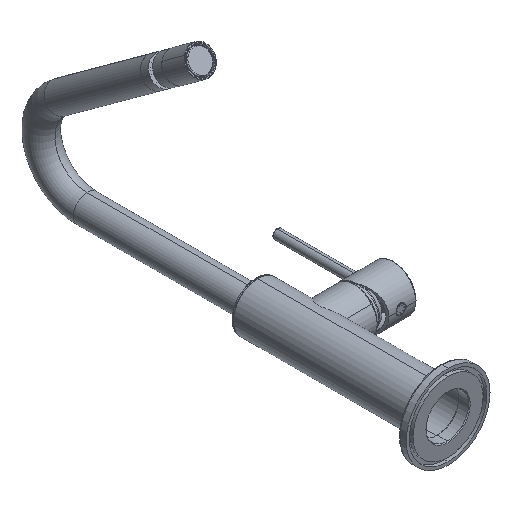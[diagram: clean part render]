
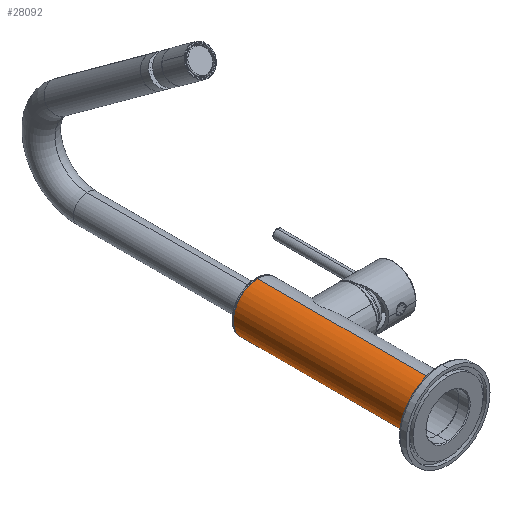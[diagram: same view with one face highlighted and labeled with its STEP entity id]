
A CAD part, isometric view. The second image highlights one B-rep face of the part: STEP entity #28092.
In plain terms, the highlighted cylindrical face has radius 16 mm (diameter 32 mm), a partial arc.
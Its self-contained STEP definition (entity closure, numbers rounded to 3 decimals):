
#61 = CARTESIAN_POINT ( 'NONE',  ( 0., 0., 0. ) ) ;
#2272 = EDGE_CURVE ( 'NONE', #13794, #27583, #13168, .T. ) ;
#2342 = CYLINDRICAL_SURFACE ( 'NONE', #31206, 16. ) ;
#2862 = CARTESIAN_POINT ( 'NONE',  ( -16., 0., 0. ) ) ;
#4632 = CARTESIAN_POINT ( 'NONE',  ( -16., 0., 120. ) ) ;
#4881 = CARTESIAN_POINT ( 'NONE',  ( 16., 0., 120. ) ) ;
#6474 = VECTOR ( 'NONE', #31515, 1000. ) ;
#9371 = CARTESIAN_POINT ( 'NONE',  ( 0., 0., 120. ) ) ;
#11826 = ORIENTED_EDGE ( 'NONE', *, *, #16583, .T. ) ;
#11944 = EDGE_CURVE ( 'NONE', #37675, #27583, #24626, .T. ) ;
#12134 = ORIENTED_EDGE ( 'NONE', *, *, #11944, .F. ) ;
#12554 = FACE_OUTER_BOUND ( 'NONE', #14313, .T. ) ;
#13168 = CIRCLE ( 'NONE', #21344, 16. ) ;
#13227 = VECTOR ( 'NONE', #39903, 1000. ) ;
#13794 = VERTEX_POINT ( 'NONE', #2862 ) ;
#14313 = EDGE_LOOP ( 'NONE', ( #12134, #34781, #11826, #31870 ) ) ;
#15671 = CARTESIAN_POINT ( 'NONE',  ( 16., 0., 0. ) ) ;
#16583 = EDGE_CURVE ( 'NONE', #19162, #13794, #33893, .T. ) ;
#17829 = DIRECTION ( 'NONE',  ( 0., 0., 1. ) ) ;
#18973 = CARTESIAN_POINT ( 'NONE',  ( -16., 0., 120. ) ) ;
#19162 = VERTEX_POINT ( 'NONE', #18973 ) ;
#21344 = AXIS2_PLACEMENT_3D ( 'NONE', #61, #25433, #32314 ) ;
#21821 = EDGE_CURVE ( 'NONE', #19162, #37675, #36580, .T. ) ;
#24626 = LINE ( 'NONE', #34469, #13227 ) ;
#25433 = DIRECTION ( 'NONE',  ( 0., 0., 1. ) ) ;
#27043 = AXIS2_PLACEMENT_3D ( 'NONE', #36881, #17829, #30040 ) ;
#27583 = VERTEX_POINT ( 'NONE', #15671 ) ;
#28092 = ADVANCED_FACE ( 'NONE', ( #12554 ), #2342, .T. ) ;
#28381 = DIRECTION ( 'NONE',  ( -1., 0., 0. ) ) ;
#29018 = DIRECTION ( 'NONE',  ( 0., 0., -1. ) ) ;
#30040 = DIRECTION ( 'NONE',  ( 1., 0., 0. ) ) ;
#31206 = AXIS2_PLACEMENT_3D ( 'NONE', #9371, #29018, #28381 ) ;
#31515 = DIRECTION ( 'NONE',  ( 0., 0., -1. ) ) ;
#31870 = ORIENTED_EDGE ( 'NONE', *, *, #2272, .T. ) ;
#32314 = DIRECTION ( 'NONE',  ( 1., 0., 0. ) ) ;
#33893 = LINE ( 'NONE', #4632, #6474 ) ;
#34469 = CARTESIAN_POINT ( 'NONE',  ( 16., 0., 120. ) ) ;
#34781 = ORIENTED_EDGE ( 'NONE', *, *, #21821, .F. ) ;
#36580 = CIRCLE ( 'NONE', #27043, 16. ) ;
#36881 = CARTESIAN_POINT ( 'NONE',  ( 0., 0., 120. ) ) ;
#37675 = VERTEX_POINT ( 'NONE', #4881 ) ;
#39903 = DIRECTION ( 'NONE',  ( 0., 0., -1. ) ) ;
